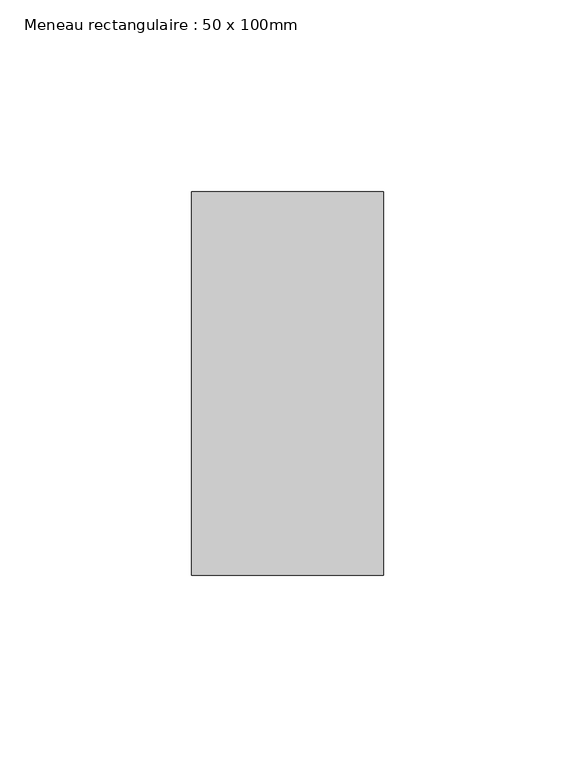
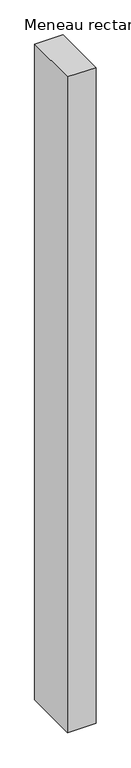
"""IFC4 building model written with IfcOpenShell, lengths in millimetres: member geometry, Meneau rectangulaire : 50 x 100mm."""

import ifcopenshell
import ifcopenshell.guid

model = None  # the IFC model being written
_history = None  # IfcOwnerHistory: only IFC2X3 demands one
_inside = {}  # id of a spatial element -> (the spatial element, [elements in it])
_under = {}  # id of a project, library or spatial element -> (it, [spatial elements below it])
_declared = {}  # id of a project -> (the project, [libraries it declares])
_typed = {}  # id of a type object -> (the type object, [elements of that type])
_made_of = {}  # id of a material, layer set ... -> (it, [elements and type objects made of it])


def new_model(schema):
    """Start an empty IFC model of exactly this schema.

    Asked for "IFC4X3", IfcOpenShell would pick the latest addendum, in which some entities
    have other attributes; the version numbers below select the first issue.
    IFC2X3 requires an IfcOwnerHistory on every rooted entity: one is made here for all.
    """
    global model, _history
    if schema == "IFC4X3":
        model = ifcopenshell.file(schema_version=(4, 3, 0, 0))
    else:
        model = ifcopenshell.file(schema=schema)
    _inside.clear()
    _under.clear()
    _declared.clear()
    _typed.clear()
    _made_of.clear()
    _history = None
    if model.schema == "IFC2X3":
        org = make("IfcOrganization", Name="unknown")
        user = make(
            "IfcPersonAndOrganization",
            ThePerson=make("IfcPerson", FamilyName="unknown"),
            TheOrganization=org,
        )
        app = make(
            "IfcApplication",
            ApplicationDeveloper=org,
            Version="unknown",
            ApplicationFullName="unknown",
            ApplicationIdentifier="unknown",
        )
        _history = make(
            "IfcOwnerHistory",
            OwningUser=user,
            OwningApplication=app,
            ChangeAction="ADDED",
            CreationDate=0,
        )
    return model


def make(cls, **values):
    """One entity of the class cls with the attributes given. An attribute that is None is left unset."""
    return model.create_entity(
        cls, **{name: value for name, value in values.items() if value is not None}
    )


def rooted(cls, **values):
    """An entity with a GlobalId (a new one), such as an element, a storey or a relation."""
    return make(cls, GlobalId=ifcopenshell.guid.new(), OwnerHistory=_history, **values)


def si_unit(unit_type, name, prefix=None):
    """IfcSIUnit, for example si_unit("LENGTHUNIT", "METRE", prefix="MILLI")."""
    return make("IfcSIUnit", UnitType=unit_type, Prefix=prefix, Name=name)


def assignment(units):
    """IfcUnitAssignment: the units of a project."""
    return None if units is None else make("IfcUnitAssignment", Units=units)


def point(xyz):
    """IfcCartesianPoint."""
    return None if xyz is None else make("IfcCartesianPoint", Coordinates=xyz)


def direction(xyz):
    """IfcDirection."""
    return None if xyz is None else make("IfcDirection", DirectionRatios=xyz)


def frame(location, z_axis=None, x_axis=None):
    """IfcAxis2Placement3D, a coordinate frame: its origin and axes. An axis left out is left unset."""
    return make(
        "IfcAxis2Placement3D",
        Location=point(location),
        Axis=direction(z_axis),
        RefDirection=direction(x_axis),
    )


def origin():
    """The frame at (0, 0, 0) with its axes left unset."""
    return frame((0.0, 0.0, 0.0))


def place(relative_to, where):
    """IfcLocalPlacement: puts the frame where relative to a parent placement (None: the world)."""
    return make(
        "IfcLocalPlacement", PlacementRelTo=relative_to, RelativePlacement=where
    )


def context(
    kind, dimensions, precision=None, world=None, true_north=None, identifier=None
):
    """IfcGeometricRepresentationContext, for example the 3D "Model" context."""
    return make(
        "IfcGeometricRepresentationContext",
        ContextIdentifier=identifier,
        ContextType=kind,
        CoordinateSpaceDimension=dimensions,
        Precision=precision,
        WorldCoordinateSystem=world,
        TrueNorth=true_north,
    )


def project(units=None, contexts=None):
    """IfcProject with its units and contexts."""
    return rooted(
        "IfcProject",
        Name="project",
        RepresentationContexts=contexts,
        UnitsInContext=assignment(units),
    )


def spatial(cls, under=None, at=None, **own):
    """A site, building, storey or space (cls), placed at a placement, below another one or the project."""
    s = rooted(cls, ObjectPlacement=at, **own)
    if under is not None:
        _under.setdefault(under.id(), (under, []))[1].append(s)
    return s


def polyline(points):
    """IfcPolyline through the points."""
    return make("IfcPolyline", Points=[point(p) for p in points])


def outline(outer, holes=None, kind="AREA"):
    """IfcArbitraryClosedProfileDef: a profile drawn as a closed curve; with holes, ...WithVoids."""
    if holes is None:
        return make("IfcArbitraryClosedProfileDef", ProfileType=kind, OuterCurve=outer)
    return make(
        "IfcArbitraryProfileDefWithVoids",
        ProfileType=kind,
        OuterCurve=outer,
        InnerCurves=holes,
    )


def extrude(swept, where, along, depth):
    """IfcExtrudedAreaSolid: the profile swept, set in the frame where, extruded along a direction by depth."""
    return make(
        "IfcExtrudedAreaSolid",
        SweptArea=swept,
        Position=where,
        ExtrudedDirection=direction(along),
        Depth=depth,
    )


def shape(context_of_items, identifier, shape_type, items):
    """IfcShapeRepresentation: the items that make up one representation, for example the "Body"."""
    return make(
        "IfcShapeRepresentation",
        ContextOfItems=context_of_items,
        RepresentationIdentifier=identifier,
        RepresentationType=shape_type,
        Items=items,
    )


def source(mapping_origin, context_of_items, identifier, shape_type, items):
    """IfcRepresentationMap: a shape defined once, which mapped items show again and again."""
    return make(
        "IfcRepresentationMap",
        MappingOrigin=mapping_origin,
        MappedRepresentation=shape(context_of_items, identifier, shape_type, items),
    )


def transform(
    local_origin,
    x_axis=None,
    y_axis=None,
    z_axis=None,
    scale=None,
    scale2=None,
    scale3=None,
    uniform=True,
):
    """IfcCartesianTransformationOperator3D, or its non-uniform kind. x_axis, y_axis, z_axis: its Axis1, 2, 3."""
    if uniform:
        return make(
            "IfcCartesianTransformationOperator3D",
            Axis1=direction(x_axis),
            Axis2=direction(y_axis),
            LocalOrigin=point(local_origin),
            Scale=scale,
            Axis3=direction(z_axis),
        )
    return make(
        "IfcCartesianTransformationOperator3DnonUniform",
        Axis1=direction(x_axis),
        Axis2=direction(y_axis),
        LocalOrigin=point(local_origin),
        Scale=scale,
        Axis3=direction(z_axis),
        Scale2=scale2,
        Scale3=scale3,
    )


def mapped(mapping_source, mapping_target):
    """IfcMappedItem: shows the shape of a source again, moved by a transform."""
    return make(
        "IfcMappedItem", MappingSource=mapping_source, MappingTarget=mapping_target
    )


def made_of(thing, what):
    """Note that an element or type object is made of a material, layer set ...; save() writes the relation."""
    if what is not None:
        _made_of.setdefault(what.id(), (what, []))[1].append(thing)
    return thing


def element(
    cls,
    number,
    at=None,
    inside=None,
    cuts=None,
    type_object=None,
    material=None,
    context=None,
    identifier="Body",
    shape_type=None,
    held_by="IfcProductDefinitionShape",
    body=None,
    shapes=None,
    **own,
):
    """One element of the class cls, such as IfcWall. Its Tag is "e" and its number.

    at: its placement. inside: the storey or other place that contains it. cuts: it is an
    opening in that element (IfcRelVoidsElement). A single representation is given by context,
    identifier, shape_type and body (its items); several are given by shapes. held_by: the class
    of the entity that holds the representations. save() writes the other relations.
    """
    e = rooted(cls, Tag="e%d" % number, ObjectPlacement=at, **own)
    if body is not None:
        shapes = [shape(context, identifier, shape_type, body)]
    if shapes is not None:
        e.Representation = make(held_by, Representations=shapes)
    if inside is not None:
        _inside.setdefault(inside.id(), (inside, []))[1].append(e)
    if cuts is not None:
        rooted(
            "IfcRelVoidsElement", RelatingBuildingElement=cuts, RelatedOpeningElement=e
        )
    if type_object is not None:
        _typed.setdefault(type_object.id(), (type_object, []))[1].append(e)
    return made_of(e, material)


def aggregate(whole, parts):
    """IfcRelAggregates: a whole, such as a stair, and the parts it consists of."""
    return rooted("IfcRelAggregates", RelatingObject=whole, RelatedObjects=parts)


def save(model, path):
    """Write the relations noted so far, then the file.

    IfcRelAggregates (storeys below a building ...), IfcRelContainedInSpatialStructure (elements
    in a storey), IfcRelDefinesByType, IfcRelAssociatesMaterial and IfcRelDeclares: one each for
    every whole, place, type object, material and project.
    """
    for whole, parts in _under.values():
        aggregate(whole, parts)
    for where, things in _inside.values():
        rooted(
            "IfcRelContainedInSpatialStructure",
            RelatedElements=things,
            RelatingStructure=where,
        )
    for kind, things in _typed.values():
        rooted("IfcRelDefinesByType", RelatedObjects=things, RelatingType=kind)
    for what, things in _made_of.values():
        rooted("IfcRelAssociatesMaterial", RelatedObjects=things, RelatingMaterial=what)
    for by, libraries in _declared.values():
        rooted("IfcRelDeclares", RelatingContext=by, RelatedDefinitions=libraries)
    model.write(path)


def meneau_rectangulaire_50_x_100mm_d09d4065(model_context):
    return source(origin(), model_context, "Body", "SweptSolid", [
        extrude(outline(polyline([(0.0, 50.0), (0.0, -50.0), (-50.0, -50.0), (-50.0, 50.0), (0.0, 50.0)])), frame((0.0, 0.0, -1219.9999999), z_axis=(0.0, 0.0, 1.0), x_axis=(1.0, 0.0, 0.0)), (0.0, 0.0, 1.0), 1219.9999999),
    ])


if __name__ == "__main__":
    model = new_model("IFC4")
    model_context = context("Model", 3, world=origin())
    ifc_project = project(units=[si_unit("LENGTHUNIT", "METRE", prefix="MILLI")], contexts=[model_context])
    site = spatial("IfcSite", under=ifc_project)
    building = spatial("IfcBuilding", under=site)
    placement = place(None, origin())
    meneau_rectangulaire_50_x_100mm_shape = meneau_rectangulaire_50_x_100mm_d09d4065(model_context)
    element("IfcMember", 1, ObjectType="Meneau rectangulaire : 50 x 100mm", at=placement, inside=building, context=model_context, shape_type="MappedRepresentation", body=[
        mapped(meneau_rectangulaire_50_x_100mm_shape, transform((0.0, 0.0, 0.0), x_axis=(1.0, 0.0, 0.0), y_axis=(0.0, 1.0, 0.0), z_axis=(0.0, 0.0, 1.0))),
    ])
    save(model, "model.ifc")
